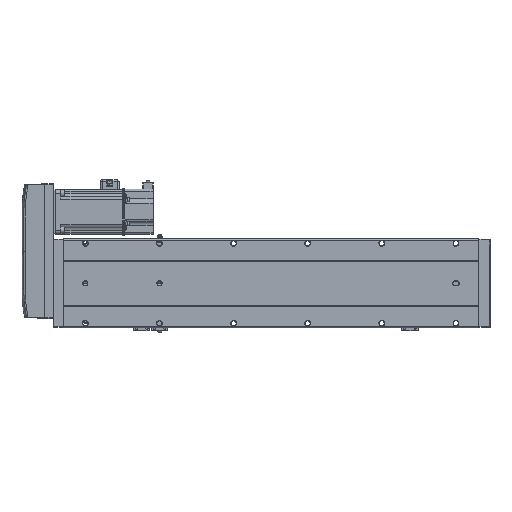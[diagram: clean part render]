
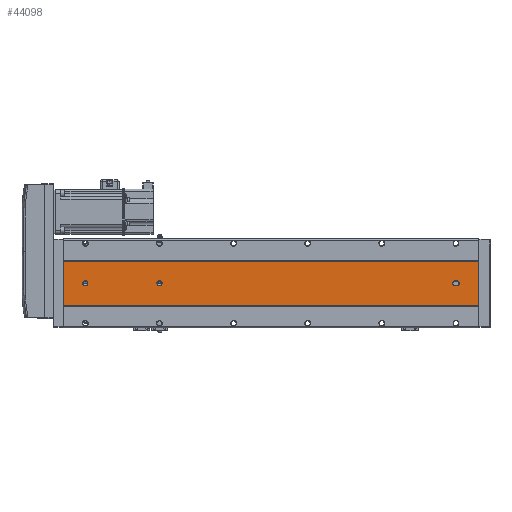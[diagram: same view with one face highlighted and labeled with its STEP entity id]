
A CAD part, front view. The second image highlights one B-rep face of the part: STEP entity #44098.
In plain terms, the highlighted planar face has unit normal (0, -1, 0).
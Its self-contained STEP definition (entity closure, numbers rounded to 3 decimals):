
#189 = CARTESIAN_POINT ( 'NONE',  ( -39.892, -52.848, 534.5 ) ) ;
#593 = EDGE_CURVE ( 'NONE', #11436, #32654, #14216, .T. ) ;
#600 = ORIENTED_EDGE ( 'NONE', *, *, #593, .F. ) ;
#1497 = DIRECTION ( 'NONE',  ( 0., 1., 0. ) ) ;
#3097 = DIRECTION ( 'NONE',  ( 0., 0., 1. ) ) ;
#3891 = CARTESIAN_POINT ( 'NONE',  ( -39.892, -52.848, 26.5 ) ) ;
#4146 = FACE_BOUND ( 'NONE', #80013, .T. ) ;
#4850 = CARTESIAN_POINT ( 'NONE',  ( -69.892, -52.848, 0. ) ) ;
#6758 = ORIENTED_EDGE ( 'NONE', *, *, #24495, .T. ) ;
#8388 = CARTESIAN_POINT ( 'NONE',  ( -43.392, -52.848, 32. ) ) ;
#8940 = DIRECTION ( 'NONE',  ( 0., 0., 1. ) ) ;
#10511 = FACE_OUTER_BOUND ( 'NONE', #99765, .T. ) ;
#11241 = VECTOR ( 'NONE', #60062, 1000. ) ;
#11436 = VERTEX_POINT ( 'NONE', #84447 ) ;
#12139 = EDGE_CURVE ( 'NONE', #45840, #28898, #43300, .T. ) ;
#14216 = LINE ( 'NONE', #27594, #55360 ) ;
#14310 = LINE ( 'NONE', #66267, #76744 ) ;
#14494 = EDGE_CURVE ( 'NONE', #28898, #31644, #95444, .T. ) ;
#14859 = VERTEX_POINT ( 'NONE', #61556 ) ;
#15295 = DIRECTION ( 'NONE',  ( 0., 1., 0. ) ) ;
#15960 = ORIENTED_EDGE ( 'NONE', *, *, #66097, .T. ) ;
#18113 = AXIS2_PLACEMENT_3D ( 'NONE', #86720, #38806, #71343 ) ;
#18458 = DIRECTION ( 'NONE',  ( 1., 0., 0. ) ) ;
#18839 = DIRECTION ( 'NONE',  ( 0., 1., 0. ) ) ;
#18971 = CARTESIAN_POINT ( 'NONE',  ( -39.892, -52.848, 531. ) ) ;
#21430 = EDGE_CURVE ( 'NONE', #60169, #74311, #60869, .T. ) ;
#22109 = VECTOR ( 'NONE', #64716, 1000. ) ;
#24495 = EDGE_CURVE ( 'NONE', #31644, #95614, #31587, .T. ) ;
#25010 = CARTESIAN_POINT ( 'NONE',  ( -39.892, -52.848, 30. ) ) ;
#26988 = EDGE_CURVE ( 'NONE', #96503, #11436, #14310, .T. ) ;
#27232 = CARTESIAN_POINT ( 'NONE',  ( -69.892, -52.848, 561. ) ) ;
#27539 = EDGE_LOOP ( 'NONE', ( #85127, #31298, #6758, #100137, #65574 ) ) ;
#27594 = CARTESIAN_POINT ( 'NONE',  ( -9.892, -52.848, 561. ) ) ;
#27889 = CARTESIAN_POINT ( 'NONE',  ( -39.892, -52.848, 431. ) ) ;
#28898 = VERTEX_POINT ( 'NONE', #8388 ) ;
#29086 = VECTOR ( 'NONE', #91166, 1000. ) ;
#29640 = EDGE_CURVE ( 'NONE', #98485, #45840, #66292, .T. ) ;
#31298 = ORIENTED_EDGE ( 'NONE', *, *, #14494, .T. ) ;
#31555 = ORIENTED_EDGE ( 'NONE', *, *, #97052, .T. ) ;
#31587 = LINE ( 'NONE', #35269, #29086 ) ;
#31644 = VERTEX_POINT ( 'NONE', #63902 ) ;
#32654 = VERTEX_POINT ( 'NONE', #71057 ) ;
#33784 = CARTESIAN_POINT ( 'NONE',  ( -39.892, -52.848, 527.5 ) ) ;
#35269 = CARTESIAN_POINT ( 'NONE',  ( -36.392, -52.848, 561. ) ) ;
#38806 = DIRECTION ( 'NONE',  ( 0., 1., 0. ) ) ;
#39492 = ORIENTED_EDGE ( 'NONE', *, *, #26988, .F. ) ;
#39925 = LINE ( 'NONE', #4850, #11241 ) ;
#40217 = ORIENTED_EDGE ( 'NONE', *, *, #21430, .T. ) ;
#40398 = ORIENTED_EDGE ( 'NONE', *, *, #47690, .T. ) ;
#40441 = AXIS2_PLACEMENT_3D ( 'NONE', #27889, #18839, #3097 ) ;
#40544 = VECTOR ( 'NONE', #48676, 1000. ) ;
#42705 = AXIS2_PLACEMENT_3D ( 'NONE', #27232, #90796, #90446 ) ;
#43300 = LINE ( 'NONE', #64374, #22109 ) ;
#44098 = ADVANCED_FACE ( 'NONE', ( #80408, #65380, #4146, #10511 ), #51998, .F. ) ;
#44687 = CARTESIAN_POINT ( 'NONE',  ( -36.392, -52.848, 30. ) ) ;
#45840 = VERTEX_POINT ( 'NONE', #52774 ) ;
#47690 = EDGE_CURVE ( 'NONE', #94421, #32654, #39925, .T. ) ;
#48676 = DIRECTION ( 'NONE',  ( 0., 0., -1. ) ) ;
#51791 = DIRECTION ( 'NONE',  ( 0., 0., 1. ) ) ;
#51998 = PLANE ( 'NONE',  #42705 ) ;
#52774 = CARTESIAN_POINT ( 'NONE',  ( -43.392, -52.848, 30. ) ) ;
#53147 = AXIS2_PLACEMENT_3D ( 'NONE', #88828, #1497, #80791 ) ;
#55360 = VECTOR ( 'NONE', #83483, 1000. ) ;
#55421 = DIRECTION ( 'NONE',  ( 0., 0., 1. ) ) ;
#56611 = EDGE_CURVE ( 'NONE', #95614, #98485, #102355, .T. ) ;
#56814 = LINE ( 'NONE', #103238, #40544 ) ;
#57946 = CARTESIAN_POINT ( 'NONE',  ( -39.892, -52.848, 427.5 ) ) ;
#58380 = AXIS2_PLACEMENT_3D ( 'NONE', #80881, #95226, #8940 ) ;
#60062 = DIRECTION ( 'NONE',  ( 1., 0., 0. ) ) ;
#60169 = VERTEX_POINT ( 'NONE', #189 ) ;
#60361 = ORIENTED_EDGE ( 'NONE', *, *, #74469, .T. ) ;
#60869 = CIRCLE ( 'NONE', #18113, 3.5 ) ;
#61556 = CARTESIAN_POINT ( 'NONE',  ( -39.892, -52.848, 434.5 ) ) ;
#63902 = CARTESIAN_POINT ( 'NONE',  ( -36.392, -52.848, 32. ) ) ;
#64374 = CARTESIAN_POINT ( 'NONE',  ( -43.392, -52.848, 561. ) ) ;
#64716 = DIRECTION ( 'NONE',  ( 0., 0., 1. ) ) ;
#64875 = AXIS2_PLACEMENT_3D ( 'NONE', #25010, #66205, #82279 ) ;
#65380 = FACE_BOUND ( 'NONE', #102330, .T. ) ;
#65574 = ORIENTED_EDGE ( 'NONE', *, *, #29640, .T. ) ;
#65789 = CIRCLE ( 'NONE', #75832, 3.5 ) ;
#66097 = EDGE_CURVE ( 'NONE', #69876, #14859, #65789, .T. ) ;
#66205 = DIRECTION ( 'NONE',  ( 0., 1., 0. ) ) ;
#66267 = CARTESIAN_POINT ( 'NONE',  ( -69.892, -52.848, 561. ) ) ;
#66292 = CIRCLE ( 'NONE', #58380, 3.5 ) ;
#66655 = CARTESIAN_POINT ( 'NONE',  ( -69.892, -52.848, 561. ) ) ;
#69876 = VERTEX_POINT ( 'NONE', #57946 ) ;
#71057 = CARTESIAN_POINT ( 'NONE',  ( -9.892, -52.848, 0. ) ) ;
#71343 = DIRECTION ( 'NONE',  ( 0., 0., 1. ) ) ;
#73710 = CARTESIAN_POINT ( 'NONE',  ( -69.892, -52.848, 0. ) ) ;
#74311 = VERTEX_POINT ( 'NONE', #33784 ) ;
#74339 = CIRCLE ( 'NONE', #81833, 3.5 ) ;
#74469 = EDGE_CURVE ( 'NONE', #96503, #94421, #56814, .T. ) ;
#75223 = DIRECTION ( 'NONE',  ( 0., 1., 0. ) ) ;
#75832 = AXIS2_PLACEMENT_3D ( 'NONE', #80169, #15295, #55421 ) ;
#76744 = VECTOR ( 'NONE', #18458, 1000. ) ;
#80013 = EDGE_LOOP ( 'NONE', ( #31555, #40217 ) ) ;
#80169 = CARTESIAN_POINT ( 'NONE',  ( -39.892, -52.848, 431. ) ) ;
#80408 = FACE_BOUND ( 'NONE', #27539, .T. ) ;
#80791 = DIRECTION ( 'NONE',  ( 0., 0., 1. ) ) ;
#80881 = CARTESIAN_POINT ( 'NONE',  ( -39.892, -52.848, 30. ) ) ;
#81833 = AXIS2_PLACEMENT_3D ( 'NONE', #18971, #75223, #51791 ) ;
#82279 = DIRECTION ( 'NONE',  ( 0., 0., 1. ) ) ;
#83483 = DIRECTION ( 'NONE',  ( 0., 0., -1. ) ) ;
#84447 = CARTESIAN_POINT ( 'NONE',  ( -9.892, -52.848, 561. ) ) ;
#85127 = ORIENTED_EDGE ( 'NONE', *, *, #12139, .T. ) ;
#86047 = EDGE_CURVE ( 'NONE', #14859, #69876, #92833, .T. ) ;
#86720 = CARTESIAN_POINT ( 'NONE',  ( -39.892, -52.848, 531. ) ) ;
#88828 = CARTESIAN_POINT ( 'NONE',  ( -39.892, -52.848, 32. ) ) ;
#90446 = DIRECTION ( 'NONE',  ( 0., 0., 1. ) ) ;
#90796 = DIRECTION ( 'NONE',  ( 0., 1., 0. ) ) ;
#91166 = DIRECTION ( 'NONE',  ( 0., 0., -1. ) ) ;
#92833 = CIRCLE ( 'NONE', #40441, 3.5 ) ;
#94421 = VERTEX_POINT ( 'NONE', #73710 ) ;
#95226 = DIRECTION ( 'NONE',  ( 0., 1., 0. ) ) ;
#95369 = ORIENTED_EDGE ( 'NONE', *, *, #86047, .T. ) ;
#95444 = CIRCLE ( 'NONE', #53147, 3.5 ) ;
#95614 = VERTEX_POINT ( 'NONE', #44687 ) ;
#96503 = VERTEX_POINT ( 'NONE', #66655 ) ;
#97052 = EDGE_CURVE ( 'NONE', #74311, #60169, #74339, .T. ) ;
#98485 = VERTEX_POINT ( 'NONE', #3891 ) ;
#99765 = EDGE_LOOP ( 'NONE', ( #40398, #600, #39492, #60361 ) ) ;
#100137 = ORIENTED_EDGE ( 'NONE', *, *, #56611, .T. ) ;
#102330 = EDGE_LOOP ( 'NONE', ( #15960, #95369 ) ) ;
#102355 = CIRCLE ( 'NONE', #64875, 3.5 ) ;
#103238 = CARTESIAN_POINT ( 'NONE',  ( -69.892, -52.848, 561. ) ) ;
